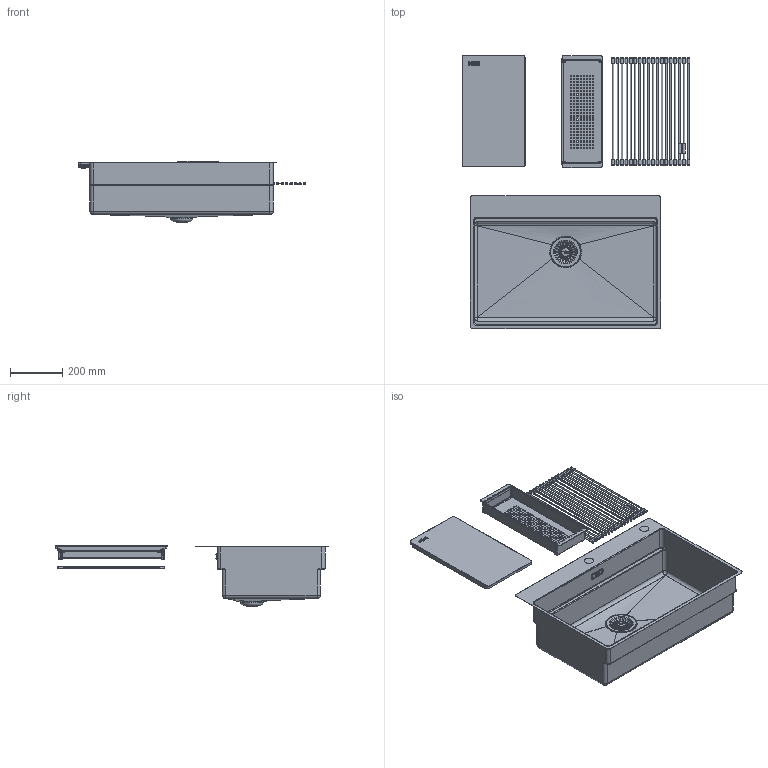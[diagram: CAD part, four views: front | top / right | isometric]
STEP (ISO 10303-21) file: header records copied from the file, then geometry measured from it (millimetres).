
FILE_DESCRIPTION(/* description */ (''),/* implementation_level */ '2;1');
FILE_NAME(/* name */ '3D001_Sinks_Box-Pro_BXX-PRO-210-70-TL',/* time_stamp */ '2026-07-08T10:08:05+02:00',/* author */ (''),/* organization */ (''),/* preprocessor_version */ 'ST-DEVELOPER v19.2',/* originating_system */ 'Rhino 8.31',/* authorisation */ '');
FILE_SCHEMA (('CONFIG_CONTROL_DESIGN'));
Products named in the file (11): Document; 20287093_iam_000; 20287095_ipt_000; 20111975_IPT_000; ROLLMAT; 20116789_IPT_000; STRAINER_BOWL; 20116746_IPT_000; 20116745_IPT_000; 20110328_IPT_000; OVERFLOW
Bounding box: 870.31 x 1047.9 x 234.72 mm (x, y, z)
Volume: 2355458.8 mm3; surface area: 2408403 mm2
Topology: 48 solids, 55 shells, 5430 faces, 14975 edges, 9695 vertices
Faces by surface type: plane 2742, cylinder 1751, bspline 937
Full cylindrical faces by diameter (mm): 3.9 x4, 4 x8, 4.8 x18, 5 x12, 5.05 x4, 5.994 x1, 6 x57, 6.2 x1, 8 x1, 11 x1, 12.6 x1, 13.743 x1, 25 x1, 31 x1, 47 x1, 84 x1, 89 x1
Entity records: 193664 total; most frequent: CARTESIAN_POINT 87312, ORIENTED_EDGE 25816, EDGE_CURVE 12981, DIRECTION 12926, B_SPLINE_CURVE_WITH_KNOTS 8514, VERTEX_POINT 8468, AXIS2_PLACEMENT_3D 8449, EDGE_LOOP 5259
